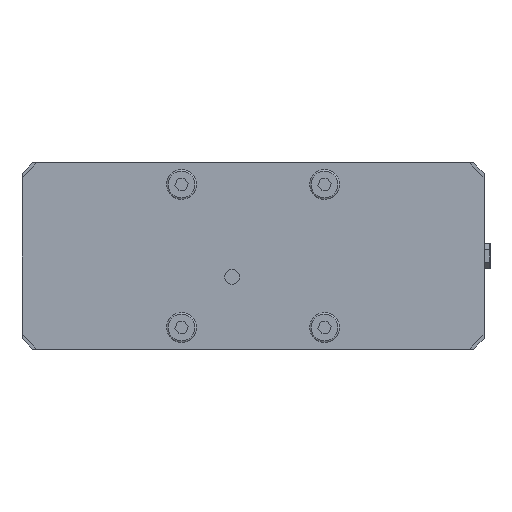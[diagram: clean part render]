
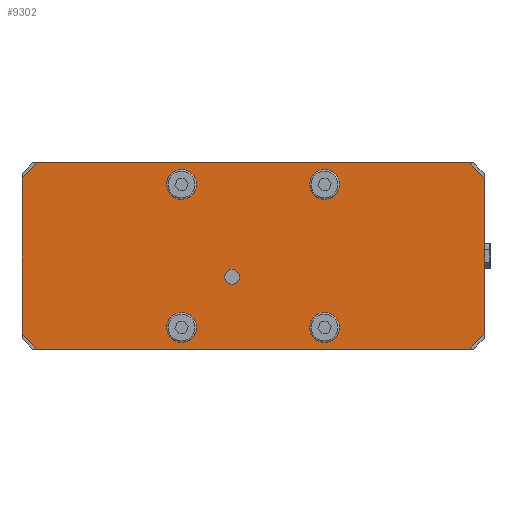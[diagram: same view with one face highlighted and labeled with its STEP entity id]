
A CAD part, front view. The second image highlights one B-rep face of the part: STEP entity #9302.
In plain terms, the highlighted planar face has unit normal (0, -1, 0).
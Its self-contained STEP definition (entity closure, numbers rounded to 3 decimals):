
#135 = DIRECTION ( 'NONE',  ( 0.707, 0., -0.707 ) ) ;
#353 = CARTESIAN_POINT ( 'NONE',  ( -145., 0., -62.5 ) ) ;
#658 = DIRECTION ( 'NONE',  ( -0.707, 0., 0.707 ) ) ;
#725 = VERTEX_POINT ( 'NONE', #1868 ) ;
#736 = VERTEX_POINT ( 'NONE', #4013 ) ;
#989 = DIRECTION ( 'NONE',  ( 0., -1., 0. ) ) ;
#1587 = CARTESIAN_POINT ( 'NONE',  ( 48., 0., -48. ) ) ;
#1863 = EDGE_CURVE ( 'NONE', #24913, #28909, #7055, .T. ) ;
#1868 = CARTESIAN_POINT ( 'NONE',  ( 155., 0., 52.5 ) ) ;
#2022 = VERTEX_POINT ( 'NONE', #8885 ) ;
#2187 = ORIENTED_EDGE ( 'NONE', *, *, #35987, .T. ) ;
#3491 = CARTESIAN_POINT ( 'NONE',  ( 155., 0., 52.5 ) ) ;
#3675 = CIRCLE ( 'NONE', #28412, 8. ) ;
#3748 = CARTESIAN_POINT ( 'NONE',  ( 155., 0., -62.5 ) ) ;
#3999 = FACE_BOUND ( 'NONE', #28285, .T. ) ;
#4013 = CARTESIAN_POINT ( 'NONE',  ( -14., 0., -19. ) ) ;
#4099 = CARTESIAN_POINT ( 'NONE',  ( 155., 0., -52.5 ) ) ;
#4164 = CARTESIAN_POINT ( 'NONE',  ( -48., 0., 56. ) ) ;
#4432 = DIRECTION ( 'NONE',  ( 0., 1., 0. ) ) ;
#4712 = ORIENTED_EDGE ( 'NONE', *, *, #25583, .T. ) ;
#5121 = VECTOR ( 'NONE', #17288, 1000. ) ;
#5595 = VERTEX_POINT ( 'NONE', #39381 ) ;
#5951 = AXIS2_PLACEMENT_3D ( 'NONE', #26257, #9826, #22938 ) ;
#6997 = CARTESIAN_POINT ( 'NONE',  ( -145., 0., 62.5 ) ) ;
#7055 = LINE ( 'NONE', #3748, #5121 ) ;
#7170 = DIRECTION ( 'NONE',  ( -1., 0., 0. ) ) ;
#7525 = AXIS2_PLACEMENT_3D ( 'NONE', #1587, #4432, #24845 ) ;
#7716 = VERTEX_POINT ( 'NONE', #4164 ) ;
#8481 = CARTESIAN_POINT ( 'NONE',  ( -155., 0., -52.5 ) ) ;
#8605 = ORIENTED_EDGE ( 'NONE', *, *, #26052, .F. ) ;
#8653 = CIRCLE ( 'NONE', #33283, 8. ) ;
#8885 = CARTESIAN_POINT ( 'NONE',  ( -56., 0., -48. ) ) ;
#9072 = DIRECTION ( 'NONE',  ( 0., 0., -1. ) ) ;
#9302 = ADVANCED_FACE ( 'NONE', ( #34237, #3999, #17525, #10874, #37508, #32789 ), #16078, .F. ) ;
#9475 = LINE ( 'NONE', #6997, #39310 ) ;
#9808 = LINE ( 'NONE', #23330, #33191 ) ;
#9826 = DIRECTION ( 'NONE',  ( 0., 1., 0. ) ) ;
#10150 = CARTESIAN_POINT ( 'NONE',  ( 145., 0., -62.5 ) ) ;
#10303 = EDGE_CURVE ( 'NONE', #39711, #39711, #16039, .T. ) ;
#10386 = LINE ( 'NONE', #23886, #12794 ) ;
#10874 = FACE_BOUND ( 'NONE', #33666, .T. ) ;
#11130 = DIRECTION ( 'NONE',  ( 0., 0., -1. ) ) ;
#12112 = CARTESIAN_POINT ( 'NONE',  ( -155., 0., 52.5 ) ) ;
#12267 = VERTEX_POINT ( 'NONE', #4099 ) ;
#12794 = VECTOR ( 'NONE', #37217, 1000. ) ;
#13527 = ORIENTED_EDGE ( 'NONE', *, *, #28529, .T. ) ;
#14163 = CARTESIAN_POINT ( 'NONE',  ( 56., 0., 48. ) ) ;
#15151 = ORIENTED_EDGE ( 'NONE', *, *, #34166, .T. ) ;
#15331 = EDGE_CURVE ( 'NONE', #736, #736, #35199, .T. ) ;
#16039 = CIRCLE ( 'NONE', #7525, 8. ) ;
#16078 = PLANE ( 'NONE',  #27839 ) ;
#16602 = CARTESIAN_POINT ( 'NONE',  ( 155., 0., -62.5 ) ) ;
#17288 = DIRECTION ( 'NONE',  ( -1., 0., 0. ) ) ;
#17525 = FACE_BOUND ( 'NONE', #37180, .T. ) ;
#18909 = EDGE_LOOP ( 'NONE', ( #39082, #33073, #4712, #13527, #26316, #30396, #8605, #15151 ) ) ;
#19162 = DIRECTION ( 'NONE',  ( 0., 1., 0. ) ) ;
#20026 = DIRECTION ( 'NONE',  ( 0., 0., -1. ) ) ;
#20246 = CARTESIAN_POINT ( 'NONE',  ( -48., 0., 48. ) ) ;
#21608 = ORIENTED_EDGE ( 'NONE', *, *, #10303, .T. ) ;
#21892 = AXIS2_PLACEMENT_3D ( 'NONE', #34500, #989, #11130 ) ;
#22811 = LINE ( 'NONE', #16602, #33932 ) ;
#22938 = DIRECTION ( 'NONE',  ( 1., 0., 0. ) ) ;
#23330 = CARTESIAN_POINT ( 'NONE',  ( -155., 0., -62.5 ) ) ;
#23368 = LINE ( 'NONE', #353, #39656 ) ;
#23886 = CARTESIAN_POINT ( 'NONE',  ( 155., 0., 62.5 ) ) ;
#24164 = EDGE_CURVE ( 'NONE', #2022, #2022, #3675, .T. ) ;
#24845 = DIRECTION ( 'NONE',  ( 0., 0., -1. ) ) ;
#24913 = VERTEX_POINT ( 'NONE', #10150 ) ;
#25583 = EDGE_CURVE ( 'NONE', #42917, #26421, #9808, .T. ) ;
#26052 = EDGE_CURVE ( 'NONE', #725, #12267, #22811, .T. ) ;
#26257 = CARTESIAN_POINT ( 'NONE',  ( 48., 0., 48. ) ) ;
#26316 = ORIENTED_EDGE ( 'NONE', *, *, #1863, .F. ) ;
#26421 = VERTEX_POINT ( 'NONE', #8481 ) ;
#27155 = ORIENTED_EDGE ( 'NONE', *, *, #15331, .F. ) ;
#27839 = AXIS2_PLACEMENT_3D ( 'NONE', #35644, #19162, #38876 ) ;
#28285 = EDGE_LOOP ( 'NONE', ( #21608 ) ) ;
#28412 = AXIS2_PLACEMENT_3D ( 'NONE', #40613, #30610, #7170 ) ;
#28529 = EDGE_CURVE ( 'NONE', #26421, #28909, #23368, .T. ) ;
#28564 = DIRECTION ( 'NONE',  ( 0.707, 0., 0.707 ) ) ;
#28909 = VERTEX_POINT ( 'NONE', #39026 ) ;
#30240 = CARTESIAN_POINT ( 'NONE',  ( -145., 0., 62.5 ) ) ;
#30396 = ORIENTED_EDGE ( 'NONE', *, *, #36550, .T. ) ;
#30610 = DIRECTION ( 'NONE',  ( 0., 1., 0. ) ) ;
#30910 = LINE ( 'NONE', #3491, #34668 ) ;
#31292 = EDGE_LOOP ( 'NONE', ( #2187 ) ) ;
#31375 = VERTEX_POINT ( 'NONE', #14163 ) ;
#31394 = EDGE_CURVE ( 'NONE', #42054, #42917, #9475, .T. ) ;
#32789 = FACE_OUTER_BOUND ( 'NONE', #18909, .T. ) ;
#32816 = ORIENTED_EDGE ( 'NONE', *, *, #24164, .T. ) ;
#32957 = ORIENTED_EDGE ( 'NONE', *, *, #34383, .T. ) ;
#33073 = ORIENTED_EDGE ( 'NONE', *, *, #31394, .T. ) ;
#33191 = VECTOR ( 'NONE', #20026, 1000. ) ;
#33275 = DIRECTION ( 'NONE',  ( -0.707, 0., -0.707 ) ) ;
#33283 = AXIS2_PLACEMENT_3D ( 'NONE', #20246, #42623, #33630 ) ;
#33462 = VECTOR ( 'NONE', #28564, 1000. ) ;
#33630 = DIRECTION ( 'NONE',  ( 0., 0., 1. ) ) ;
#33666 = EDGE_LOOP ( 'NONE', ( #32957 ) ) ;
#33724 = EDGE_CURVE ( 'NONE', #5595, #42054, #10386, .T. ) ;
#33932 = VECTOR ( 'NONE', #9072, 1000. ) ;
#34166 = EDGE_CURVE ( 'NONE', #725, #5595, #30910, .T. ) ;
#34237 = FACE_BOUND ( 'NONE', #31292, .T. ) ;
#34383 = EDGE_CURVE ( 'NONE', #7716, #7716, #8653, .T. ) ;
#34500 = CARTESIAN_POINT ( 'NONE',  ( -14., 0., -14. ) ) ;
#34668 = VECTOR ( 'NONE', #658, 1000. ) ;
#35199 = CIRCLE ( 'NONE', #21892, 5. ) ;
#35644 = CARTESIAN_POINT ( 'NONE',  ( 155., 0., -62.5 ) ) ;
#35649 = EDGE_LOOP ( 'NONE', ( #27155 ) ) ;
#35987 = EDGE_CURVE ( 'NONE', #31375, #31375, #42456, .T. ) ;
#36460 = CARTESIAN_POINT ( 'NONE',  ( 48., 0., -56. ) ) ;
#36550 = EDGE_CURVE ( 'NONE', #24913, #12267, #41640, .T. ) ;
#37180 = EDGE_LOOP ( 'NONE', ( #32816 ) ) ;
#37217 = DIRECTION ( 'NONE',  ( -1., 0., 0. ) ) ;
#37508 = FACE_BOUND ( 'NONE', #35649, .T. ) ;
#37936 = CARTESIAN_POINT ( 'NONE',  ( 155., 0., -52.5 ) ) ;
#38876 = DIRECTION ( 'NONE',  ( 0., 0., 1. ) ) ;
#39026 = CARTESIAN_POINT ( 'NONE',  ( -145., 0., -62.5 ) ) ;
#39082 = ORIENTED_EDGE ( 'NONE', *, *, #33724, .T. ) ;
#39310 = VECTOR ( 'NONE', #33275, 1000. ) ;
#39381 = CARTESIAN_POINT ( 'NONE',  ( 145., 0., 62.5 ) ) ;
#39656 = VECTOR ( 'NONE', #135, 1000. ) ;
#39711 = VERTEX_POINT ( 'NONE', #36460 ) ;
#40613 = CARTESIAN_POINT ( 'NONE',  ( -48., 0., -48. ) ) ;
#41640 = LINE ( 'NONE', #37936, #33462 ) ;
#42054 = VERTEX_POINT ( 'NONE', #30240 ) ;
#42456 = CIRCLE ( 'NONE', #5951, 8. ) ;
#42623 = DIRECTION ( 'NONE',  ( 0., 1., 0. ) ) ;
#42917 = VERTEX_POINT ( 'NONE', #12112 ) ;
